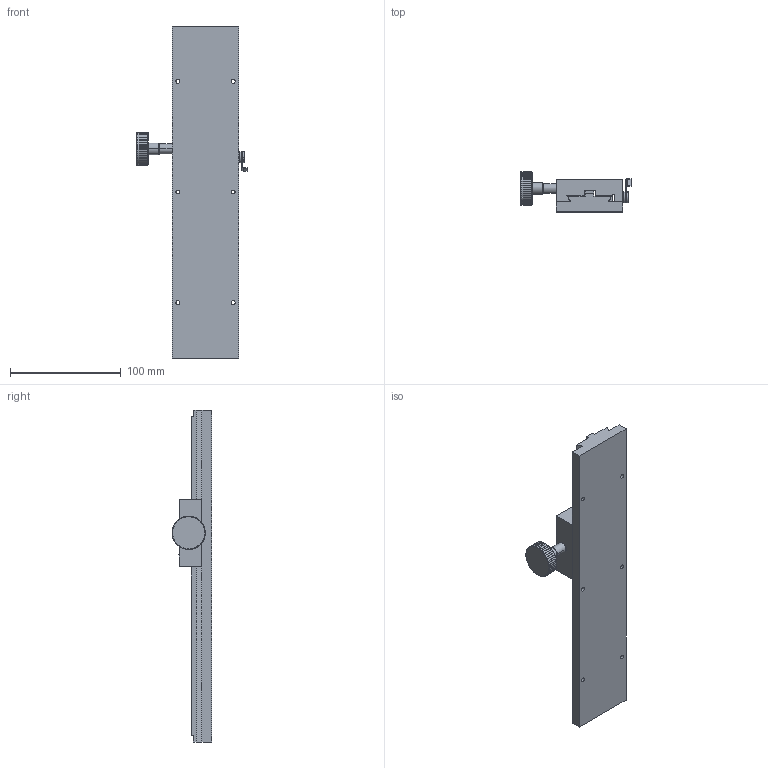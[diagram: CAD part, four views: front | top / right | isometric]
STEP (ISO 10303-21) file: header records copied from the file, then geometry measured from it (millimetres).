
FILE_DESCRIPTION (( 'STEP AP214' ), '1' );
FILE_NAME ('PT-DN60-300.STEP', '2022-08-27T08:24:04', ( '' ), ( '' ), 'SwSTEP 2.0', 'SolidWorks 2017', '' );
FILE_SCHEMA (( 'AUTOMOTIVE_DESIGN' ));
Length unit declared in the file: millimetre
Products named in the file (1): PT-DN60-300
Bounding box: 100.5 x 36 x 300 mm (x, y, z)
Surface area: 66920.2 mm2 (no closed solid volume)
Topology: 0 solids, 7 shells, 268 faces, 855 edges, 576 vertices
Faces by surface type: cylinder 209, plane 52, cone 6, bspline 1
Entity records: 11400 total; most frequent: CARTESIAN_POINT 3954, ORIENTED_EDGE 1568, DIRECTION 1474, EDGE_CURVE 855, VERTEX_POINT 576, AXIS2_PLACEMENT_3D 547, LINE 380, VECTOR 380
